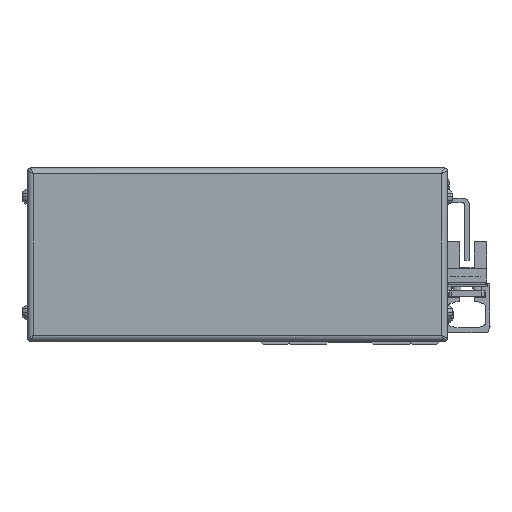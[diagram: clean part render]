
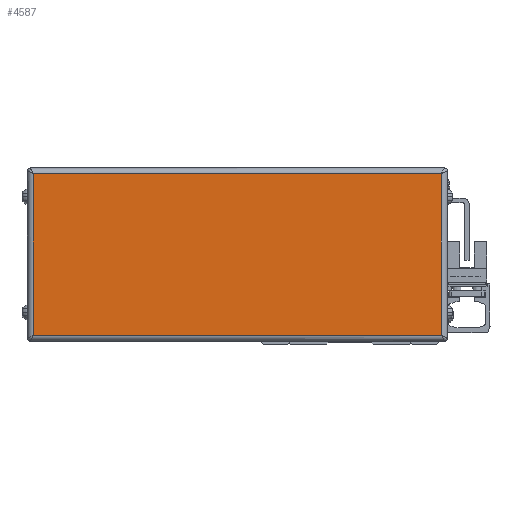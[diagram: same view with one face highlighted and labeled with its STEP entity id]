
A CAD part, left-side view. The second image highlights one B-rep face of the part: STEP entity #4587.
In plain terms, the highlighted planar face has unit normal (-1, 0, 0).
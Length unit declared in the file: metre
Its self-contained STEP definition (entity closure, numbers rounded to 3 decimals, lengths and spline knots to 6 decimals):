
#4587=ADVANCED_FACE('',(#9878),#9879,.T.);
#9878=FACE_OUTER_BOUND('',#17054,.T.);
#9879=PLANE('',#17055);
#17054=EDGE_LOOP('',(#30607,#30608,#30609,#30610));
#17055=AXIS2_PLACEMENT_3D('',#30611,#30612,#30613);
#30607=ORIENTED_EDGE('',*,*,#44933,.T.);
#30608=ORIENTED_EDGE('',*,*,#42670,.T.);
#30609=ORIENTED_EDGE('',*,*,#45121,.T.);
#30610=ORIENTED_EDGE('',*,*,#45122,.T.);
#30611=CARTESIAN_POINT('',(-0.054,0.039,-0.001));
#30612=DIRECTION('',(-1.0,0.0,0.0));
#30613=DIRECTION('',(0.0,0.,1.0));
#42670=EDGE_CURVE('',#50023,#50028,#50030,.T.);
#44933=EDGE_CURVE('',#53186,#50023,#53714,.T.);
#45121=EDGE_CURVE('',#50028,#54009,#54010,.T.);
#45122=EDGE_CURVE('',#54009,#53186,#54011,.T.);
#50023=VERTEX_POINT('',#60538);
#50028=VERTEX_POINT('',#60559);
#50030=LINE('',#60577,#60578);
#53186=VERTEX_POINT('',#65062);
#53714=LINE('',#65928,#65929);
#54009=VERTEX_POINT('',#66349);
#54010=LINE('',#66350,#66351);
#54011=LINE('',#66352,#66353);
#60538=CARTESIAN_POINT('',(-0.054,0.1097,0.027));
#60559=CARTESIAN_POINT('',(-0.054,0.1097,-0.029));
#60577=CARTESIAN_POINT('',(-0.054,0.1097,-0.001));
#60578=VECTOR('',#73886,1.0);
#65062=CARTESIAN_POINT('',(-0.054,-0.0317,0.027));
#65928=CARTESIAN_POINT('',(-0.054,0.039,0.027));
#65929=VECTOR('',#76684,1.0);
#66349=CARTESIAN_POINT('',(-0.054,-0.0317,-0.029));
#66350=CARTESIAN_POINT('',(-0.054,0.039,-0.029));
#66351=VECTOR('',#76937,1.0);
#66352=CARTESIAN_POINT('',(-0.054,-0.0317,-0.001));
#66353=VECTOR('',#76938,1.0);
#73886=DIRECTION('',(0.0,0.,-1.0));
#76684=DIRECTION('',(0.0,1.0,0.));
#76937=DIRECTION('',(0.0,-1.0,0.));
#76938=DIRECTION('',(0.0,0.,1.0));
